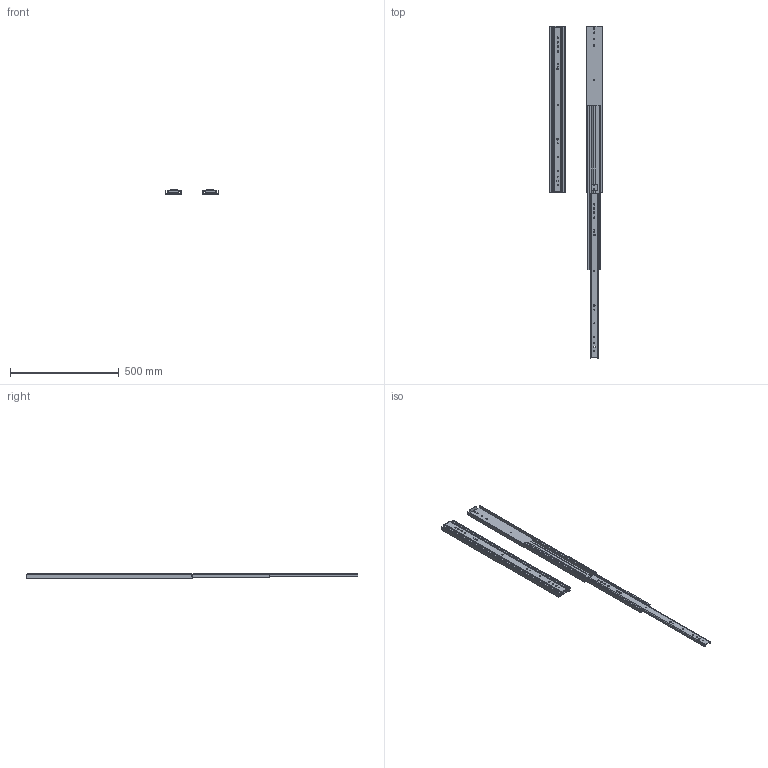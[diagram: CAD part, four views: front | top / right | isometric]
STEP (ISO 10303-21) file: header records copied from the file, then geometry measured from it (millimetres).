
FILE_DESCRIPTION((''),'2;1');
FILE_NAME('ASSEM1_1_2_3_4_5_6_7_8_9_10_11_ASM','2026-04-07T16:45:32',('T260078'),(''),'CREO PARAMETRIC BY PTC INC, 2025123','CREO PARAMETRIC BY PTC INC, 2025123','');
FILE_SCHEMA(('CONFIG_CONTROL_DESIGN','SHAPE_APPEARANCE_LAYERS_GROUPS'));
Length unit declared in the file: millimetre
Products named in the file (6): 76J01-30_X2_540B_X0_-M; 76J01-30_X2_540B_X0_-I; 76J01-30_X2_540B_X0_-O; 76J01-30_X2_540_X0__ASM; 76J01-30_X2_540B_X0_-_X2_5C5595_ASM; ASSEM1_1_2_3_4_5_6_7_8_9_10_11_ASM
Assembly tree (8 placements, depth 3):
  ASSEM1_1_2_3_4_5_6_7_8_9_10_11_ASM
    76J01-30_X2_540_X0__ASM
      76J01-30_X2_540B_X0_-M
      76J01-30_X2_540B_X0_-I
      76J01-30_X2_540B_X0_-O
    76J01-30_X2_540B_X0_-_X2_5C5595_ASM
      76J01-30_X2_540B_X0_-M
      76J01-30_X2_540B_X0_-I
      76J01-30_X2_540B_X0_-O
Bounding box: 245.44 x 1524 x 19.3 mm (x, y, z)
Volume: 935701.6 mm3; surface area: 836382.6 mm2
Topology: 6 solids, 6 shells, 400 faces, 1276 edges, 876 vertices
Faces by surface type: plane 200, cylinder 200
Entity records: 8695 total; most frequent: CARTESIAN_POINT 1322, DIRECTION 1303, ORIENTED_EDGE 1276, EDGE_CURVE 638, AXIS2_PLACEMENT_3D 452, VERTEX_POINT 438, VECTOR 399, LINE 399
